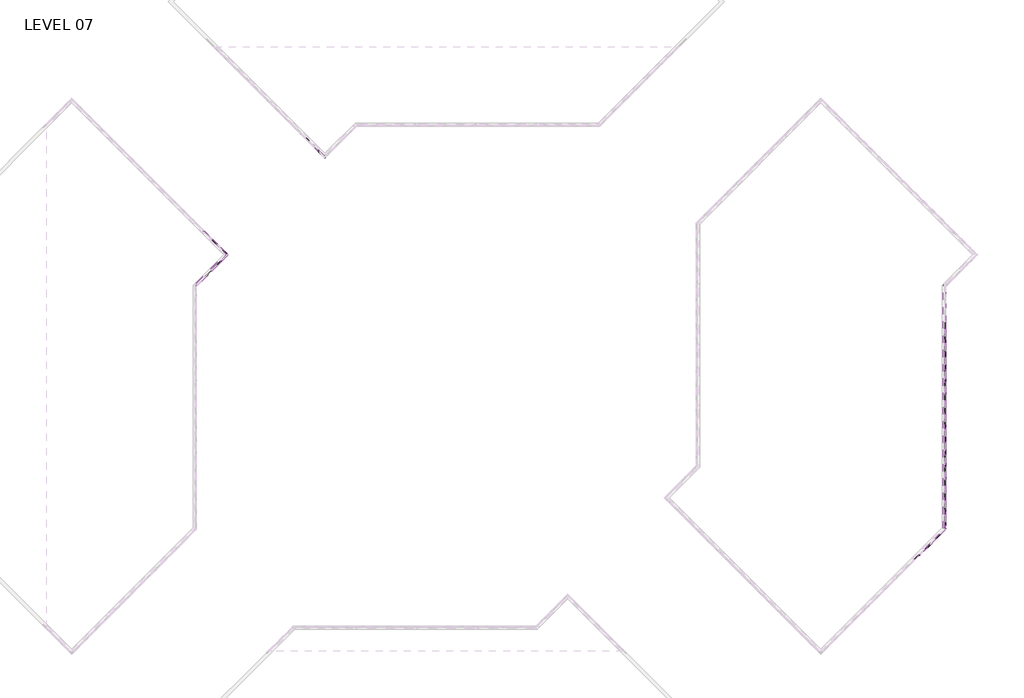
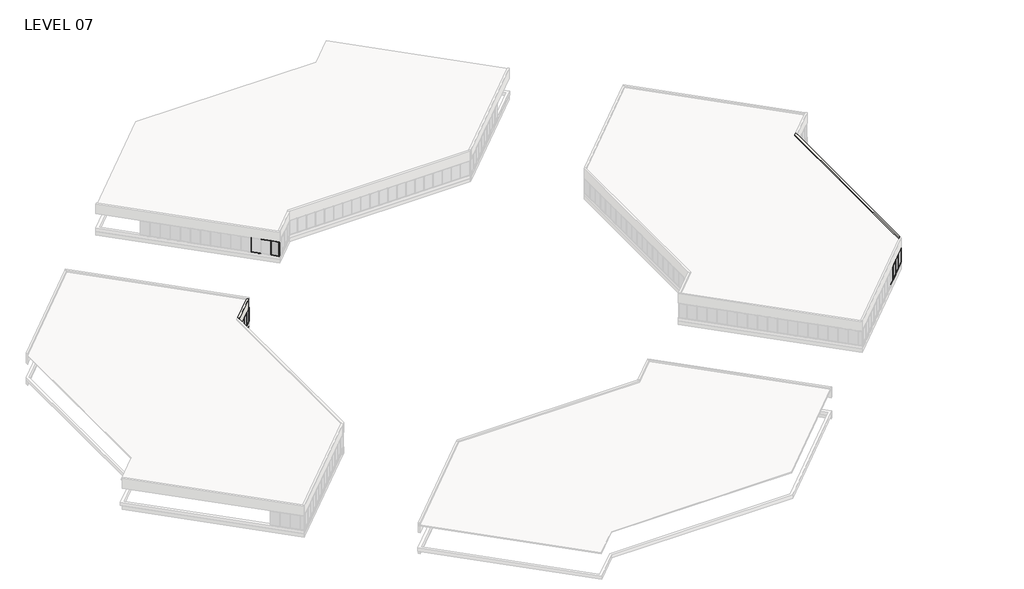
# One storey, part 12 of 18: 85 members, 25 plates, 4 walls.
"""IFC4 building model written with IfcOpenShell, lengths in millimetres."""

from ifc_helpers import new_model, si_unit, frame, origin, place, context, project, spatial, polyline, outline, extrude, faceted_brep, transform, mapped, element, save
from components import member_5247f267, member_e44af9ab, member_800970d4, member_dd9f6d43, member_1bd862b2, member_c975838b, plate_c3b8b83d, plate_67294edd, plate_bbcbcabf, plate_3fb62afd, plate_6ecefdb5

model = new_model("IFC4")

# Units and contexts
model_context = context("Model", 3, world=origin())
ifc_project = project(units=[si_unit("LENGTHUNIT", "METRE", prefix="MILLI")], contexts=[model_context])

# Site, building, storey
site = spatial("IfcSite", under=ifc_project)
building = spatial("IfcBuilding", under=site)
storey = spatial("IfcBuildingStorey", under=building, Name="LEVEL 07", Elevation=23368.0)

# Members
placement = place(None, origin())
member_shape = member_5247f267(model_context)
element("IfcMember", 1, ObjectType="Rectangular Mullion : 2\" x 4.5\" rectangular", at=placement, inside=storey, context=model_context, shape_type="MappedRepresentation", body=[
    mapped(member_shape, transform((11588.663179, 87977.3829903, 23368.0), x_axis=(0.0, 0.0, -1.0), y_axis=(-0.7071067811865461, -0.707106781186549, 0.0), z_axis=(-0.707106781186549, 0.7071067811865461, 0.0))),
])
element("IfcMember", 2, ObjectType="Rectangular Mullion : 2\" x 4.5\" rectangular", at=placement, inside=storey, context=model_context, shape_type="MappedRepresentation", body=[
    mapped(member_shape, transform((13708.0036235, 85858.0425458, 25958.8), x_axis=(0.0, 0.0, 1.0), y_axis=(-0.7071067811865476, -0.7071067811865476, 0.0), z_axis=(0.7071067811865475, -0.7071067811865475, 0.0))),
])
member_2_shape = member_e44af9ab(model_context)
element("IfcMember", 3, ObjectType="Rectangular Mullion : 2\" x 4.5\" rectangular", at=placement, inside=storey, context=model_context, shape_type="MappedRepresentation", body=[
    mapped(member_2_shape, transform((11570.7026667, 87995.3435026, 23368.0), x_axis=(0.7071067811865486, -0.7071067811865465, 0.0), y_axis=(-0.7071067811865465, -0.7071067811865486, 0.0), z_axis=(0.0, 0.0, -1.0))),
])
element("IfcMember", 4, ObjectType="Rectangular Mullion : 2\" x 4.5\" rectangular", at=placement, inside=storey, context=model_context, shape_type="MappedRepresentation", body=[
    mapped(member_2_shape, transform((13725.9641358, 85840.0820335, 23368.0), x_axis=(0.7071067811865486, -0.7071067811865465, 0.0), y_axis=(-0.7071067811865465, -0.7071067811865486, 0.0), z_axis=(0.0, 0.0, -1.0))),
])
member_3_shape = member_800970d4(model_context)
element("IfcMember", 5, ObjectType="Rectangular Mullion : 2\" x 4.5\" rectangular", at=placement, inside=storey, context=model_context, shape_type="MappedRepresentation", body=[
    mapped(member_3_shape, transform((14585.95, 84980.0961693, 23368.0), x_axis=(0.7071067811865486, -0.7071067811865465, 0.0), y_axis=(-0.7071067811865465, -0.7071067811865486, 0.0), z_axis=(0.0, 0.0, -1.0))),
])
element("IfcMember", 6, ObjectType="Rectangular Mullion : 2\" x 4.5\" rectangular", at=placement, inside=storey, context=model_context, shape_type="MappedRepresentation", body=[
    mapped(member_3_shape, transform((14585.95, 84980.0961693, 25958.8), x_axis=(-0.7071067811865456, -0.7071067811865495, 0.0), y_axis=(0.7071067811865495, -0.7071067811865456, 0.0), z_axis=(0.0, 0.0, 1.0))),
])
member_4_shape = member_dd9f6d43(model_context)
element("IfcMember", 7, ObjectType="Rectangular Mullion : 2\" x 4.5\" rectangular", at=placement, inside=storey, context=model_context, shape_type="MappedRepresentation", body=[
    mapped(member_4_shape, transform((14550.0289755, 85016.0171938, 25958.8), x_axis=(0.0, 0.0, 1.0), y_axis=(-0.7071067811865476, -0.7071067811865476, 0.0), z_axis=(0.7071067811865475, -0.7071067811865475, 0.0))),
])
element("IfcMember", 8, ObjectType="Rectangular Mullion : 2\" x 4.5\" rectangular", at=placement, inside=storey, context=model_context, shape_type="MappedRepresentation", body=[
    mapped(member_4_shape, transform((13743.924648, 85822.1215213, 23368.0), x_axis=(0.0, 0.0, -1.0), y_axis=(-0.7071067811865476, -0.7071067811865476, 0.0), z_axis=(-0.7071067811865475, 0.7071067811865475, 0.0))),
])
element("IfcMember", 9, ObjectType="Rectangular Mullion : 2\" x 4.5\" rectangular", at=placement, inside=storey, context=model_context, shape_type="MappedRepresentation", body=[
    mapped(member_shape, transform((92435.9347164, 58305.3675885, 25958.8), x_axis=(0.0, 0.0, 1.0), y_axis=(-1.0, 0.0, 0.0), z_axis=(0.0, -1.0, 0.0))),
])
element("IfcMember", 10, ObjectType="Rectangular Mullion : 2\" x 4.5\" rectangular", at=placement, inside=storey, context=model_context, shape_type="MappedRepresentation", body=[
    mapped(member_shape, transform((92435.9347164, 56781.3675885, 25958.8), x_axis=(0.0, 0.0, 1.0), y_axis=(-1.0, 0.0, 0.0), z_axis=(0.0, -1.0, 0.0))),
])
element("IfcMember", 11, ObjectType="Rectangular Mullion : 2\" x 4.5\" rectangular", at=placement, inside=storey, context=model_context, shape_type="MappedRepresentation", body=[
    mapped(member_shape, transform((92435.9347164, 55257.3675885, 25958.8), x_axis=(0.0, 0.0, 1.0), y_axis=(-1.0, 0.0, 0.0), z_axis=(0.0, -1.0, 0.0))),
])
element("IfcMember", 12, ObjectType="Rectangular Mullion : 2\" x 4.5\" rectangular", at=placement, inside=storey, context=model_context, shape_type="MappedRepresentation", body=[
    mapped(member_shape, transform((92435.9347164, 52209.3675885, 25958.8), x_axis=(0.0, 0.0, 1.0), y_axis=(-1.0, 0.0, 0.0), z_axis=(0.0, -1.0, 0.0))),
])
element("IfcMember", 13, ObjectType="Rectangular Mullion : 2\" x 4.5\" rectangular", at=placement, inside=storey, context=model_context, shape_type="MappedRepresentation", body=[
    mapped(member_shape, transform((92435.9347164, 50685.3675885, 25958.8), x_axis=(0.0, 0.0, 1.0), y_axis=(-1.0, 0.0, 0.0), z_axis=(0.0, -1.0, 0.0))),
])
element("IfcMember", 14, ObjectType="Rectangular Mullion : 2\" x 4.5\" rectangular", at=placement, inside=storey, context=model_context, shape_type="MappedRepresentation", body=[
    mapped(member_shape, transform((92435.9347164, 47637.3675885, 25958.8), x_axis=(0.0, 0.0, 1.0), y_axis=(-1.0, 0.0, 0.0), z_axis=(0.0, -1.0, 0.0))),
])
element("IfcMember", 15, ObjectType="Rectangular Mullion : 2\" x 4.5\" rectangular", at=placement, inside=storey, context=model_context, shape_type="MappedRepresentation", body=[
    mapped(member_shape, transform((92435.9347164, 43065.3675885, 25958.8), x_axis=(0.0, 0.0, 1.0), y_axis=(-1.0, 0.0, 0.0), z_axis=(0.0, -1.0, 0.0))),
])
element("IfcMember", 16, ObjectType="Rectangular Mullion : 2\" x 4.5\" rectangular", at=placement, inside=storey, context=model_context, shape_type="MappedRepresentation", body=[
    mapped(member_shape, transform((92435.9347164, 41541.3675885, 25958.8), x_axis=(0.0, 0.0, 1.0), y_axis=(-1.0, 0.0, 0.0), z_axis=(0.0, -1.0, 0.0))),
])
element("IfcMember", 17, ObjectType="Rectangular Mullion : 2\" x 4.5\" rectangular", at=placement, inside=storey, context=model_context, shape_type="MappedRepresentation", body=[
    mapped(member_shape, transform((92435.9347164, 62877.3675885, 25958.8), x_axis=(0.0, 0.0, 1.0), y_axis=(-1.0, 0.0, 0.0), z_axis=(0.0, -1.0, 0.0))),
])
element("IfcMember", 18, ObjectType="Rectangular Mullion : 2\" x 4.5\" rectangular", at=placement, inside=storey, context=model_context, shape_type="MappedRepresentation", body=[
    mapped(member_shape, transform((92435.9347164, 59829.3675885, 25958.8), x_axis=(0.0, 0.0, 1.0), y_axis=(-1.0, 0.0, 0.0), z_axis=(0.0, -1.0, 0.0))),
])
element("IfcMember", 19, ObjectType="Rectangular Mullion : 2\" x 4.5\" rectangular", at=placement, inside=storey, context=model_context, shape_type="MappedRepresentation", body=[
    mapped(member_shape, transform((92435.9347164, 61353.3675885, 25958.8), x_axis=(0.0, 0.0, 1.0), y_axis=(-1.0, 0.0, 0.0), z_axis=(0.0, -1.0, 0.0))),
])
element("IfcMember", 20, ObjectType="Rectangular Mullion : 2\" x 4.5\" rectangular", at=placement, inside=storey, context=model_context, shape_type="MappedRepresentation", body=[
    mapped(member_shape, transform((92435.9347164, 49161.3675885, 25958.8), x_axis=(0.0, 0.0, 1.0), y_axis=(-1.0, 0.0, 0.0), z_axis=(0.0, -1.0, 0.0))),
])
element("IfcMember", 21, ObjectType="Rectangular Mullion : 2\" x 4.5\" rectangular", at=placement, inside=storey, context=model_context, shape_type="MappedRepresentation", body=[
    mapped(member_shape, transform((92435.9347164, 53733.3675885, 25958.8), x_axis=(0.0, 0.0, 1.0), y_axis=(-1.0, 0.0, 0.0), z_axis=(0.0, -1.0, 0.0))),
])
element("IfcMember", 22, ObjectType="Rectangular Mullion : 2\" x 4.5\" rectangular", at=placement, inside=storey, context=model_context, shape_type="MappedRepresentation", body=[
    mapped(member_shape, transform((92435.9347164, 46113.3675885, 25958.8), x_axis=(0.0, 0.0, 1.0), y_axis=(-1.0, 0.0, 0.0), z_axis=(0.0, -1.0, 0.0))),
])
element("IfcMember", 23, ObjectType="Rectangular Mullion : 2\" x 4.5\" rectangular", at=placement, inside=storey, context=model_context, shape_type="MappedRepresentation", body=[
    mapped(member_shape, transform((92435.9347164, 44589.3675885, 25958.8), x_axis=(0.0, 0.0, 1.0), y_axis=(-1.0, 0.0, 0.0), z_axis=(0.0, -1.0, 0.0))),
])
element("IfcMember", 24, ObjectType="Rectangular Mullion : 2\" x 4.5\" rectangular", at=placement, inside=storey, context=model_context, shape_type="MappedRepresentation", body=[
    mapped(member_shape, transform((92435.9347164, 40017.3675885, 25958.8), x_axis=(0.0, 0.0, 1.0), y_axis=(-1.0, 0.0, 0.0), z_axis=(0.0, -1.0, 0.0))),
])
element("IfcMember", 25, ObjectType="Rectangular Mullion : 2\" x 4.5\" rectangular", at=placement, inside=storey, context=model_context, shape_type="MappedRepresentation", body=[
    mapped(member_shape, transform((90181.6405, 36047.9672365, 25958.8), x_axis=(0.0, 0.0, 1.0), y_axis=(-0.7071067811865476, 0.7071067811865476, 0.0), z_axis=(-0.7071067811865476, -0.7071067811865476, 0.0))),
])
element("IfcMember", 26, ObjectType="Rectangular Mullion : 2\" x 4.5\" rectangular", at=placement, inside=storey, context=model_context, shape_type="MappedRepresentation", body=[
    mapped(member_shape, transform((89104.0097655, 34970.336502, 25958.8), x_axis=(0.0, 0.0, 1.0), y_axis=(-0.7071067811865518, 0.7071067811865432, 0.0), z_axis=(-0.7071067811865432, -0.7071067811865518, 0.0))),
])
element("IfcMember", 27, ObjectType="Rectangular Mullion : 2\" x 4.5\" rectangular", at=placement, inside=storey, context=model_context, shape_type="MappedRepresentation", body=[
    mapped(member_shape, transform((408.2443082, 74713.5446995, 25958.8), x_axis=(0.0, 0.0, 1.0), y_axis=(-0.7071067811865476, -0.7071067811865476, 0.0), z_axis=(0.7071067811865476, -0.7071067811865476, 0.0))),
])
element("IfcMember", 28, ObjectType="Rectangular Mullion : 2\" x 4.5\" rectangular", at=placement, inside=storey, context=model_context, shape_type="MappedRepresentation", body=[
    mapped(member_shape, transform((1485.8750428, 73635.913965, 25958.8), x_axis=(0.0, 0.0, 1.0), y_axis=(-0.7071067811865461, -0.707106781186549, 0.0), z_axis=(0.707106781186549, -0.7071067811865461, 0.0))),
])
element("IfcMember", 29, ObjectType="Rectangular Mullion : 2\" x 4.5\" rectangular", at=placement, inside=storey, context=model_context, shape_type="MappedRepresentation", body=[
    mapped(member_shape, transform((444.1692236, 70838.3153929, 25958.8), x_axis=(0.0, 0.0, 1.0), y_axis=(-0.7071067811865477, 0.7071067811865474, 0.0), z_axis=(-0.7071067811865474, -0.7071067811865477, 0.0))),
])
element("IfcMember", 30, ObjectType="Rectangular Mullion : 2\" x 4.5\" rectangular", at=placement, inside=storey, context=model_context, shape_type="MappedRepresentation", body=[
    mapped(member_shape, transform((92435.9347164, 58254.5675885, 23368.0), x_axis=(0.0, 0.0, -1.0), y_axis=(-1.0, 0.0, 0.0), z_axis=(0.0, 1.0, 0.0))),
])
element("IfcMember", 31, ObjectType="Rectangular Mullion : 2\" x 4.5\" rectangular", at=placement, inside=storey, context=model_context, shape_type="MappedRepresentation", body=[
    mapped(member_shape, transform((92435.9347164, 56730.5675885, 23368.0), x_axis=(0.0, 0.0, -1.0), y_axis=(-1.0, 0.0, 0.0), z_axis=(0.0, 1.0, 0.0))),
])
element("IfcMember", 32, ObjectType="Rectangular Mullion : 2\" x 4.5\" rectangular", at=placement, inside=storey, context=model_context, shape_type="MappedRepresentation", body=[
    mapped(member_shape, transform((92435.9347164, 55206.5675885, 23368.0), x_axis=(0.0, 0.0, -1.0), y_axis=(-1.0, 0.0, 0.0), z_axis=(0.0, 1.0, 0.0))),
])
element("IfcMember", 33, ObjectType="Rectangular Mullion : 2\" x 4.5\" rectangular", at=placement, inside=storey, context=model_context, shape_type="MappedRepresentation", body=[
    mapped(member_shape, transform((92435.9347164, 52158.5675885, 23368.0), x_axis=(0.0, 0.0, -1.0), y_axis=(-1.0, 0.0, 0.0), z_axis=(0.0, 1.0, 0.0))),
])
element("IfcMember", 34, ObjectType="Rectangular Mullion : 2\" x 4.5\" rectangular", at=placement, inside=storey, context=model_context, shape_type="MappedRepresentation", body=[
    mapped(member_shape, transform((92435.9347164, 50634.5675885, 23368.0), x_axis=(0.0, 0.0, -1.0), y_axis=(-1.0, 0.0, 0.0), z_axis=(0.0, 1.0, 0.0))),
])
element("IfcMember", 35, ObjectType="Rectangular Mullion : 2\" x 4.5\" rectangular", at=placement, inside=storey, context=model_context, shape_type="MappedRepresentation", body=[
    mapped(member_shape, transform((92435.9347164, 47586.5675885, 23368.0), x_axis=(0.0, 0.0, -1.0), y_axis=(-1.0, 0.0, 0.0), z_axis=(0.0, 1.0, 0.0))),
])
element("IfcMember", 36, ObjectType="Rectangular Mullion : 2\" x 4.5\" rectangular", at=placement, inside=storey, context=model_context, shape_type="MappedRepresentation", body=[
    mapped(member_shape, transform((92435.9347164, 43014.5675885, 23368.0), x_axis=(0.0, 0.0, -1.0), y_axis=(-1.0, 0.0, 0.0), z_axis=(0.0, 1.0, 0.0))),
])
element("IfcMember", 37, ObjectType="Rectangular Mullion : 2\" x 4.5\" rectangular", at=placement, inside=storey, context=model_context, shape_type="MappedRepresentation", body=[
    mapped(member_shape, transform((92435.9347164, 41490.5675885, 23368.0), x_axis=(0.0, 0.0, -1.0), y_axis=(-1.0, 0.0, 0.0), z_axis=(0.0, 1.0, 0.0))),
])
element("IfcMember", 38, ObjectType="Rectangular Mullion : 2\" x 4.5\" rectangular", at=placement, inside=storey, context=model_context, shape_type="MappedRepresentation", body=[
    mapped(member_shape, transform((92435.9347164, 62826.5675885, 23368.0), x_axis=(0.0, 0.0, -1.0), y_axis=(-1.0, 0.0, 0.0), z_axis=(0.0, 1.0, 0.0))),
])
element("IfcMember", 39, ObjectType="Rectangular Mullion : 2\" x 4.5\" rectangular", at=placement, inside=storey, context=model_context, shape_type="MappedRepresentation", body=[
    mapped(member_shape, transform((92435.9347164, 59778.5675885, 23368.0), x_axis=(0.0, 0.0, -1.0), y_axis=(-1.0, 0.0, 0.0), z_axis=(0.0, 1.0, 0.0))),
])
element("IfcMember", 40, ObjectType="Rectangular Mullion : 2\" x 4.5\" rectangular", at=placement, inside=storey, context=model_context, shape_type="MappedRepresentation", body=[
    mapped(member_shape, transform((92435.9347164, 61302.5675885, 23368.0), x_axis=(0.0, 0.0, -1.0), y_axis=(-1.0, 0.0, 0.0), z_axis=(0.0, 1.0, 0.0))),
])
element("IfcMember", 41, ObjectType="Rectangular Mullion : 2\" x 4.5\" rectangular", at=placement, inside=storey, context=model_context, shape_type="MappedRepresentation", body=[
    mapped(member_shape, transform((92435.9347164, 49110.5675885, 23368.0), x_axis=(0.0, 0.0, -1.0), y_axis=(-1.0, 0.0, 0.0), z_axis=(0.0, 1.0, 0.0))),
])
element("IfcMember", 42, ObjectType="Rectangular Mullion : 2\" x 4.5\" rectangular", at=placement, inside=storey, context=model_context, shape_type="MappedRepresentation", body=[
    mapped(member_shape, transform((92435.9347164, 53682.5675885, 23368.0), x_axis=(0.0, 0.0, -1.0), y_axis=(-1.0, 0.0, 0.0), z_axis=(0.0, 1.0, 0.0))),
])
element("IfcMember", 43, ObjectType="Rectangular Mullion : 2\" x 4.5\" rectangular", at=placement, inside=storey, context=model_context, shape_type="MappedRepresentation", body=[
    mapped(member_shape, transform((92435.9347164, 46062.5675885, 23368.0), x_axis=(0.0, 0.0, -1.0), y_axis=(-1.0, 0.0, 0.0), z_axis=(0.0, 1.0, 0.0))),
])
element("IfcMember", 44, ObjectType="Rectangular Mullion : 2\" x 4.5\" rectangular", at=placement, inside=storey, context=model_context, shape_type="MappedRepresentation", body=[
    mapped(member_shape, transform((92435.9347164, 44538.5675885, 23368.0), x_axis=(0.0, 0.0, -1.0), y_axis=(-1.0, 0.0, 0.0), z_axis=(0.0, 1.0, 0.0))),
])
element("IfcMember", 45, ObjectType="Rectangular Mullion : 2\" x 4.5\" rectangular", at=placement, inside=storey, context=model_context, shape_type="MappedRepresentation", body=[
    mapped(member_shape, transform((91223.3502101, 37089.6769466, 23368.0), x_axis=(0.0, 0.0, -1.0), y_axis=(-0.7071067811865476, 0.7071067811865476, 0.0), z_axis=(0.7071067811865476, 0.7071067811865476, 0.0))),
])
element("IfcMember", 46, ObjectType="Rectangular Mullion : 2\" x 4.5\" rectangular", at=placement, inside=storey, context=model_context, shape_type="MappedRepresentation", body=[
    mapped(member_shape, transform((90145.7194756, 36012.046212, 23368.0), x_axis=(0.0, 0.0, -1.0), y_axis=(-0.7071067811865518, 0.7071067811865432, 0.0), z_axis=(0.7071067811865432, 0.7071067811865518, 0.0))),
])
element("IfcMember", 47, ObjectType="Rectangular Mullion : 2\" x 4.5\" rectangular", at=placement, inside=storey, context=model_context, shape_type="MappedRepresentation", body=[
    mapped(member_shape, transform((89068.088741, 34934.4154775, 23368.0), x_axis=(0.0, 0.0, -1.0), y_axis=(-0.707106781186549, 0.7071067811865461, 0.0), z_axis=(0.7071067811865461, 0.707106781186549, 0.0))),
])
element("IfcMember", 48, ObjectType="Rectangular Mullion : 2\" x 4.5\" rectangular", at=placement, inside=storey, context=model_context, shape_type="MappedRepresentation", body=[
    mapped(member_shape, transform((444.1653327, 74677.623675, 23368.0), x_axis=(0.0, 0.0, -1.0), y_axis=(-0.7071067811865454, -0.7071067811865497, 0.0), z_axis=(-0.7071067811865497, 0.7071067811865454, 0.0))),
])
element("IfcMember", 49, ObjectType="Rectangular Mullion : 2\" x 4.5\" rectangular", at=placement, inside=storey, context=model_context, shape_type="MappedRepresentation", body=[
    mapped(member_shape, transform((1485.8789337, 71880.025103, 23368.0), x_axis=(0.0, 0.0, -1.0), y_axis=(-0.7071067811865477, 0.7071067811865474, 0.0), z_axis=(0.7071067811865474, 0.7071067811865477, 0.0))),
])
element("IfcMember", 50, ObjectType="Rectangular Mullion : 2\" x 4.5\" rectangular", at=placement, inside=storey, context=model_context, shape_type="MappedRepresentation", body=[
    mapped(member_shape, transform((408.2481992, 70802.3943684, 23368.0), x_axis=(0.0, 0.0, -1.0), y_axis=(-0.7071067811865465, 0.7071067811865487, 0.0), z_axis=(0.7071067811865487, 0.7071067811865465, 0.0))),
])
element("IfcMember", 51, ObjectType="Rectangular Mullion : 2\" x 4.5\" rectangular", at=placement, inside=storey, context=model_context, shape_type="MappedRepresentation", body=[
    mapped(member_2_shape, transform((92435.9347164, 58279.9675885, 23368.0), x_axis=(0.0, -1.0, 0.0), y_axis=(-1.0, 0.0, 0.0), z_axis=(0.0, 0.0, -1.0))),
])
element("IfcMember", 52, ObjectType="Rectangular Mullion : 2\" x 4.5\" rectangular", at=placement, inside=storey, context=model_context, shape_type="MappedRepresentation", body=[
    mapped(member_2_shape, transform((92435.9347164, 56755.9675885, 23368.0), x_axis=(0.0, -1.0, 0.0), y_axis=(-1.0, 0.0, 0.0), z_axis=(0.0, 0.0, -1.0))),
])
element("IfcMember", 53, ObjectType="Rectangular Mullion : 2\" x 4.5\" rectangular", at=placement, inside=storey, context=model_context, shape_type="MappedRepresentation", body=[
    mapped(member_2_shape, transform((92435.9347164, 55231.9675885, 23368.0), x_axis=(0.0, -1.0, 0.0), y_axis=(-1.0, 0.0, 0.0), z_axis=(0.0, 0.0, -1.0))),
])
element("IfcMember", 54, ObjectType="Rectangular Mullion : 2\" x 4.5\" rectangular", at=placement, inside=storey, context=model_context, shape_type="MappedRepresentation", body=[
    mapped(member_2_shape, transform((92435.9347164, 52183.9675885, 23368.0), x_axis=(0.0, -1.0, 0.0), y_axis=(-1.0, 0.0, 0.0), z_axis=(0.0, 0.0, -1.0))),
])
element("IfcMember", 55, ObjectType="Rectangular Mullion : 2\" x 4.5\" rectangular", at=placement, inside=storey, context=model_context, shape_type="MappedRepresentation", body=[
    mapped(member_2_shape, transform((92435.9347164, 50659.9675885, 23368.0), x_axis=(0.0, -1.0, 0.0), y_axis=(-1.0, 0.0, 0.0), z_axis=(0.0, 0.0, -1.0))),
])
element("IfcMember", 56, ObjectType="Rectangular Mullion : 2\" x 4.5\" rectangular", at=placement, inside=storey, context=model_context, shape_type="MappedRepresentation", body=[
    mapped(member_2_shape, transform((92435.9347164, 47611.9675885, 23368.0), x_axis=(0.0, -1.0, 0.0), y_axis=(-1.0, 0.0, 0.0), z_axis=(0.0, 0.0, -1.0))),
])
element("IfcMember", 57, ObjectType="Rectangular Mullion : 2\" x 4.5\" rectangular", at=placement, inside=storey, context=model_context, shape_type="MappedRepresentation", body=[
    mapped(member_2_shape, transform((92435.9347164, 43039.9675885, 23368.0), x_axis=(0.0, -1.0, 0.0), y_axis=(-1.0, 0.0, 0.0), z_axis=(0.0, 0.0, -1.0))),
])
element("IfcMember", 58, ObjectType="Rectangular Mullion : 2\" x 4.5\" rectangular", at=placement, inside=storey, context=model_context, shape_type="MappedRepresentation", body=[
    mapped(member_2_shape, transform((92435.9347164, 41515.9675885, 23368.0), x_axis=(0.0, -1.0, 0.0), y_axis=(-1.0, 0.0, 0.0), z_axis=(0.0, 0.0, -1.0))),
])
element("IfcMember", 59, ObjectType="Rectangular Mullion : 2\" x 4.5\" rectangular", at=placement, inside=storey, context=model_context, shape_type="MappedRepresentation", body=[
    mapped(member_2_shape, transform((92435.9347164, 62851.9675885, 23368.0), x_axis=(0.0, -1.0, 0.0), y_axis=(-1.0, 0.0, 0.0), z_axis=(0.0, 0.0, -1.0))),
])
element("IfcMember", 60, ObjectType="Rectangular Mullion : 2\" x 4.5\" rectangular", at=placement, inside=storey, context=model_context, shape_type="MappedRepresentation", body=[
    mapped(member_2_shape, transform((92435.9347164, 59803.9675885, 23368.0), x_axis=(0.0, -1.0, 0.0), y_axis=(-1.0, 0.0, 0.0), z_axis=(0.0, 0.0, -1.0))),
])
element("IfcMember", 61, ObjectType="Rectangular Mullion : 2\" x 4.5\" rectangular", at=placement, inside=storey, context=model_context, shape_type="MappedRepresentation", body=[
    mapped(member_2_shape, transform((92435.9347164, 61327.9675885, 23368.0), x_axis=(0.0, -1.0, 0.0), y_axis=(-1.0, 0.0, 0.0), z_axis=(0.0, 0.0, -1.0))),
])
element("IfcMember", 62, ObjectType="Rectangular Mullion : 2\" x 4.5\" rectangular", at=placement, inside=storey, context=model_context, shape_type="MappedRepresentation", body=[
    mapped(member_2_shape, transform((92435.9347164, 49135.9675885, 23368.0), x_axis=(0.0, -1.0, 0.0), y_axis=(-1.0, 0.0, 0.0), z_axis=(0.0, 0.0, -1.0))),
])
element("IfcMember", 63, ObjectType="Rectangular Mullion : 2\" x 4.5\" rectangular", at=placement, inside=storey, context=model_context, shape_type="MappedRepresentation", body=[
    mapped(member_2_shape, transform((92435.9347164, 53707.9675885, 23368.0), x_axis=(0.0, -1.0, 0.0), y_axis=(-1.0, 0.0, 0.0), z_axis=(0.0, 0.0, -1.0))),
])
element("IfcMember", 64, ObjectType="Rectangular Mullion : 2\" x 4.5\" rectangular", at=placement, inside=storey, context=model_context, shape_type="MappedRepresentation", body=[
    mapped(member_2_shape, transform((92435.9347164, 46087.9675885, 23368.0), x_axis=(0.0, -1.0, 0.0), y_axis=(-1.0, 0.0, 0.0), z_axis=(0.0, 0.0, -1.0))),
])
element("IfcMember", 65, ObjectType="Rectangular Mullion : 2\" x 4.5\" rectangular", at=placement, inside=storey, context=model_context, shape_type="MappedRepresentation", body=[
    mapped(member_2_shape, transform((92435.9347164, 44563.9675885, 23368.0), x_axis=(0.0, -1.0, 0.0), y_axis=(-1.0, 0.0, 0.0), z_axis=(0.0, 0.0, -1.0))),
])
element("IfcMember", 66, ObjectType="Rectangular Mullion : 2\" x 4.5\" rectangular", at=placement, inside=storey, context=model_context, shape_type="MappedRepresentation", body=[
    mapped(member_2_shape, transform((92435.9347164, 39991.9675885, 23368.0), x_axis=(0.0, -1.0, 0.0), y_axis=(-1.0, 0.0, 0.0), z_axis=(0.0, 0.0, -1.0))),
])
element("IfcMember", 67, ObjectType="Rectangular Mullion : 2\" x 4.5\" rectangular", at=placement, inside=storey, context=model_context, shape_type="MappedRepresentation", body=[
    mapped(member_2_shape, transform((91241.3107223, 37107.6374588, 23368.0), x_axis=(-0.7071067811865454, -0.7071067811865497, 0.0), y_axis=(-0.7071067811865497, 0.7071067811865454, 0.0), z_axis=(0.0, 0.0, -1.0))),
])
element("IfcMember", 68, ObjectType="Rectangular Mullion : 2\" x 4.5\" rectangular", at=placement, inside=storey, context=model_context, shape_type="MappedRepresentation", body=[
    mapped(member_2_shape, transform((90163.6799878, 36030.0067243, 23368.0), x_axis=(-0.7071067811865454, -0.7071067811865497, 0.0), y_axis=(-0.7071067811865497, 0.7071067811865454, 0.0), z_axis=(0.0, 0.0, -1.0))),
])
element("IfcMember", 69, ObjectType="Rectangular Mullion : 2\" x 4.5\" rectangular", at=placement, inside=storey, context=model_context, shape_type="MappedRepresentation", body=[
    mapped(member_2_shape, transform((89086.0492533, 34952.3759898, 23368.0), x_axis=(-0.7071067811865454, -0.7071067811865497, 0.0), y_axis=(-0.7071067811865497, 0.7071067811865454, 0.0), z_axis=(0.0, 0.0, -1.0))),
])
element("IfcMember", 70, ObjectType="Rectangular Mullion : 2\" x 4.5\" rectangular", at=placement, inside=storey, context=model_context, shape_type="MappedRepresentation", body=[
    mapped(member_2_shape, transform((426.2048205, 74695.5841873, 23368.0), x_axis=(0.707106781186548, -0.7071067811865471, 0.0), y_axis=(-0.7071067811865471, -0.707106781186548, 0.0), z_axis=(0.0, 0.0, -1.0))),
])
element("IfcMember", 71, ObjectType="Rectangular Mullion : 2\" x 4.5\" rectangular", at=placement, inside=storey, context=model_context, shape_type="MappedRepresentation", body=[
    mapped(member_2_shape, transform((1503.835555, 73617.9534527, 23368.0), x_axis=(0.707106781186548, -0.7071067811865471, 0.0), y_axis=(-0.7071067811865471, -0.707106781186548, 0.0), z_axis=(0.0, 0.0, -1.0))),
])
element("IfcMember", 72, ObjectType="Rectangular Mullion : 2\" x 4.5\" rectangular", at=placement, inside=storey, context=model_context, shape_type="MappedRepresentation", body=[
    mapped(member_2_shape, transform((1503.8394459, 71897.9856152, 23368.0), x_axis=(-0.707106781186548, -0.7071067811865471, 0.0), y_axis=(-0.7071067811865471, 0.707106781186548, 0.0), z_axis=(0.0, 0.0, -1.0))),
])
element("IfcMember", 73, ObjectType="Rectangular Mullion : 2\" x 4.5\" rectangular", at=placement, inside=storey, context=model_context, shape_type="MappedRepresentation", body=[
    mapped(member_2_shape, transform((426.2087114, 70820.3548807, 23368.0), x_axis=(-0.707106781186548, -0.7071067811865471, 0.0), y_axis=(-0.7071067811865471, 0.707106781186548, 0.0), z_axis=(0.0, 0.0, -1.0))),
])
element("IfcMember", 74, ObjectType="Rectangular Mullion : 2\" x 4.5\" rectangular", at=placement, inside=storey, context=model_context, shape_type="MappedRepresentation", body=[
    mapped(member_3_shape, transform((92435.9347164, 38302.2614529, 23368.0), x_axis=(0.0, -1.0, 0.0), y_axis=(-1.0, 0.0, 0.0), z_axis=(0.0, 0.0, -1.0))),
])
element("IfcMember", 75, ObjectType="Rectangular Mullion : 2\" x 4.5\" rectangular", at=placement, inside=storey, context=model_context, shape_type="MappedRepresentation", body=[
    mapped(member_3_shape, transform((2363.8214192, 72757.9675885, 23368.0), x_axis=(0.707106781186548, -0.7071067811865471, 0.0), y_axis=(-0.7071067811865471, -0.707106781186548, 0.0), z_axis=(0.0, 0.0, -1.0))),
])
element("IfcMember", 76, ObjectType="Rectangular Mullion : 2\" x 4.5\" rectangular", at=placement, inside=storey, context=model_context, shape_type="MappedRepresentation", body=[
    mapped(member_3_shape, transform((92435.9347164, 38302.2614529, 25958.8), x_axis=(0.7071067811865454, 0.7071067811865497, 0.0), y_axis=(-0.7071067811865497, 0.7071067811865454, 0.0), z_axis=(0.0, 0.0, 1.0))),
])
element("IfcMember", 77, ObjectType="Rectangular Mullion : 2\" x 4.5\" rectangular", at=placement, inside=storey, context=model_context, shape_type="MappedRepresentation", body=[
    mapped(member_3_shape, transform((2363.8214192, 72757.9675885, 25958.8), x_axis=(0.707106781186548, 0.7071067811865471, 0.0), y_axis=(-0.7071067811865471, 0.707106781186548, 0.0), z_axis=(0.0, 0.0, 1.0))),
])
member_5_shape = member_1bd862b2(model_context)
element("IfcMember", 78, ObjectType="Rectangular Mullion : 2\" x 4.5\" rectangular", at=placement, inside=storey, context=model_context, shape_type="MappedRepresentation", body=[
    mapped(member_5_shape, transform((92435.9347164, 39966.5675885, 23368.0), x_axis=(0.0, 0.0, -1.0), y_axis=(-1.0, 0.0, 0.0), z_axis=(0.0, 1.0, 0.0))),
])
element("IfcMember", 79, ObjectType="Rectangular Mullion : 2\" x 4.5\" rectangular", at=placement, inside=storey, context=model_context, shape_type="MappedRepresentation", body=[
    mapped(member_5_shape, transform((92435.9347164, 38353.0614529, 25958.8), x_axis=(0.0, 0.0, 1.0), y_axis=(-1.0, 0.0, 0.0), z_axis=(0.0, -1.0, 0.0))),
])
member_6_shape = member_c975838b(model_context)
element("IfcMember", 80, ObjectType="Rectangular Mullion : 2\" x 4.5\" rectangular", at=placement, inside=storey, context=model_context, shape_type="MappedRepresentation", body=[
    mapped(member_6_shape, transform((92400.0136919, 38266.3404284, 23368.0), x_axis=(0.0, 0.0, -1.0), y_axis=(-0.7071067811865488, 0.7071067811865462, 0.0), z_axis=(0.7071067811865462, 0.7071067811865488, 0.0))),
])
element("IfcMember", 81, ObjectType="Rectangular Mullion : 2\" x 4.5\" rectangular", at=placement, inside=storey, context=model_context, shape_type="MappedRepresentation", body=[
    mapped(member_6_shape, transform((91259.2712346, 37125.5979711, 25958.8), x_axis=(0.0, 0.0, 1.0), y_axis=(-0.7071067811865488, 0.7071067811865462, 0.0), z_axis=(-0.7071067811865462, -0.7071067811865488, 0.0))),
])
element("IfcMember", 82, ObjectType="Rectangular Mullion : 2\" x 4.5\" rectangular", at=placement, inside=storey, context=model_context, shape_type="MappedRepresentation", body=[
    mapped(member_4_shape, transform((2327.9003947, 72793.888613, 25958.8), x_axis=(0.0, 0.0, 1.0), y_axis=(-0.7071067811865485, -0.7071067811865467, 0.0), z_axis=(0.7071067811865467, -0.7071067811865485, 0.0))),
])
element("IfcMember", 83, ObjectType="Rectangular Mullion : 2\" x 4.5\" rectangular", at=placement, inside=storey, context=model_context, shape_type="MappedRepresentation", body=[
    mapped(member_4_shape, transform((1521.7999582, 71915.9461275, 25958.8), x_axis=(0.0, 0.0, 1.0), y_axis=(-0.7071067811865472, 0.7071067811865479, 0.0), z_axis=(-0.7071067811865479, -0.7071067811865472, 0.0))),
])
element("IfcMember", 84, ObjectType="Rectangular Mullion : 2\" x 4.5\" rectangular", at=placement, inside=storey, context=model_context, shape_type="MappedRepresentation", body=[
    mapped(member_4_shape, transform((1521.7960672, 73599.9929405, 23368.0), x_axis=(0.0, 0.0, -1.0), y_axis=(-0.7071067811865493, -0.7071067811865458, 0.0), z_axis=(-0.7071067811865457, 0.7071067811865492, 0.0))),
])
element("IfcMember", 85, ObjectType="Rectangular Mullion : 2\" x 4.5\" rectangular", at=placement, inside=storey, context=model_context, shape_type="MappedRepresentation", body=[
    mapped(member_4_shape, transform((2327.9003947, 72722.046564, 23368.0), x_axis=(0.0, 0.0, -1.0), y_axis=(-0.7071067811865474, 0.7071067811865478, 0.0), z_axis=(0.7071067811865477, 0.7071067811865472, 0.0))),
])

# Plates
plate_shape = plate_c3b8b83d(model_context)
element("IfcPlate", 86, ObjectType="System Panel : 1/4\" Glass", at=placement, inside=storey, context=model_context, shape_type="MappedRepresentation", body=[
    mapped(plate_shape, transform((14146.9768118, 85419.0693575, 23418.8), x_axis=(0.7071067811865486, -0.7071067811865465, 0.0), y_axis=(0.7071067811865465, 0.7071067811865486, 0.0), z_axis=(0.0, 0.0, 1.0))),
])
plate_2_shape = plate_67294edd(model_context)
element("IfcPlate", 87, ObjectType="System Panel : 1/4\" Glass", at=placement, inside=storey, context=model_context, shape_type="MappedRepresentation", body=[
    mapped(plate_2_shape, transform((92435.9347164, 63613.9675885, 23418.8), x_axis=(0.0, -1.0, 0.0), y_axis=(1.0, 0.0, 0.0), z_axis=(0.0, 0.0, 1.0))),
])
element("IfcPlate", 88, ObjectType="System Panel : 1/4\" Glass", at=placement, inside=storey, context=model_context, shape_type="MappedRepresentation", body=[
    mapped(plate_2_shape, transform((92435.9347164, 57517.9675885, 23418.8), x_axis=(0.0, -1.0, 0.0), y_axis=(1.0, 0.0, 0.0), z_axis=(0.0, 0.0, 1.0))),
])
element("IfcPlate", 89, ObjectType="System Panel : 1/4\" Glass", at=placement, inside=storey, context=model_context, shape_type="MappedRepresentation", body=[
    mapped(plate_2_shape, transform((92435.9347164, 55993.9675885, 23418.8), x_axis=(0.0, -1.0, 0.0), y_axis=(1.0, 0.0, 0.0), z_axis=(0.0, 0.0, 1.0))),
])
element("IfcPlate", 90, ObjectType="System Panel : 1/4\" Glass", at=placement, inside=storey, context=model_context, shape_type="MappedRepresentation", body=[
    mapped(plate_2_shape, transform((92435.9347164, 54469.9675885, 23418.8), x_axis=(0.0, -1.0, 0.0), y_axis=(1.0, 0.0, 0.0), z_axis=(0.0, 0.0, 1.0))),
])
element("IfcPlate", 91, ObjectType="System Panel : 1/4\" Glass", at=placement, inside=storey, context=model_context, shape_type="MappedRepresentation", body=[
    mapped(plate_2_shape, transform((92435.9347164, 51421.9675885, 23418.8), x_axis=(0.0, -1.0, 0.0), y_axis=(1.0, 0.0, 0.0), z_axis=(0.0, 0.0, 1.0))),
])
element("IfcPlate", 92, ObjectType="System Panel : 1/4\" Glass", at=placement, inside=storey, context=model_context, shape_type="MappedRepresentation", body=[
    mapped(plate_2_shape, transform((92435.9347164, 49897.9675885, 23418.8), x_axis=(0.0, -1.0, 0.0), y_axis=(1.0, 0.0, 0.0), z_axis=(0.0, 0.0, 1.0))),
])
element("IfcPlate", 93, ObjectType="System Panel : 1/4\" Glass", at=placement, inside=storey, context=model_context, shape_type="MappedRepresentation", body=[
    mapped(plate_2_shape, transform((92435.9347164, 46849.9675885, 23418.8), x_axis=(0.0, -1.0, 0.0), y_axis=(1.0, 0.0, 0.0), z_axis=(0.0, 0.0, 1.0))),
])
element("IfcPlate", 94, ObjectType="System Panel : 1/4\" Glass", at=placement, inside=storey, context=model_context, shape_type="MappedRepresentation", body=[
    mapped(plate_2_shape, transform((92435.9347164, 42277.9675885, 23418.8), x_axis=(0.0, -1.0, 0.0), y_axis=(1.0, 0.0, 0.0), z_axis=(0.0, 0.0, 1.0))),
])
element("IfcPlate", 95, ObjectType="System Panel : 1/4\" Glass", at=placement, inside=storey, context=model_context, shape_type="MappedRepresentation", body=[
    mapped(plate_2_shape, transform((92435.9347164, 40753.9675885, 23418.8), x_axis=(0.0, -1.0, 0.0), y_axis=(1.0, 0.0, 0.0), z_axis=(0.0, 0.0, 1.0))),
])
element("IfcPlate", 96, ObjectType="System Panel : 1/4\" Glass", at=placement, inside=storey, context=model_context, shape_type="MappedRepresentation", body=[
    mapped(plate_2_shape, transform((92435.9347164, 62089.9675885, 23418.8), x_axis=(0.0, -1.0, 0.0), y_axis=(1.0, 0.0, 0.0), z_axis=(0.0, 0.0, 1.0))),
])
element("IfcPlate", 97, ObjectType="System Panel : 1/4\" Glass", at=placement, inside=storey, context=model_context, shape_type="MappedRepresentation", body=[
    mapped(plate_2_shape, transform((92435.9347164, 59041.9675885, 23418.8), x_axis=(0.0, -1.0, 0.0), y_axis=(1.0, 0.0, 0.0), z_axis=(0.0, 0.0, 1.0))),
])
element("IfcPlate", 98, ObjectType="System Panel : 1/4\" Glass", at=placement, inside=storey, context=model_context, shape_type="MappedRepresentation", body=[
    mapped(plate_2_shape, transform((92435.9347164, 60565.9675885, 23418.8), x_axis=(0.0, -1.0, 0.0), y_axis=(1.0, 0.0, 0.0), z_axis=(0.0, 0.0, 1.0))),
])
element("IfcPlate", 99, ObjectType="System Panel : 1/4\" Glass", at=placement, inside=storey, context=model_context, shape_type="MappedRepresentation", body=[
    mapped(plate_2_shape, transform((92435.9347164, 48373.9675885, 23418.8), x_axis=(0.0, -1.0, 0.0), y_axis=(1.0, 0.0, 0.0), z_axis=(0.0, 0.0, 1.0))),
])
element("IfcPlate", 100, ObjectType="System Panel : 1/4\" Glass", at=placement, inside=storey, context=model_context, shape_type="MappedRepresentation", body=[
    mapped(plate_2_shape, transform((92435.9347164, 52945.9675885, 23418.8), x_axis=(0.0, -1.0, 0.0), y_axis=(1.0, 0.0, 0.0), z_axis=(0.0, 0.0, 1.0))),
])
element("IfcPlate", 101, ObjectType="System Panel : 1/4\" Glass", at=placement, inside=storey, context=model_context, shape_type="MappedRepresentation", body=[
    mapped(plate_2_shape, transform((92435.9347164, 45325.9675885, 23418.8), x_axis=(0.0, -1.0, 0.0), y_axis=(1.0, 0.0, 0.0), z_axis=(0.0, 0.0, 1.0))),
])
element("IfcPlate", 102, ObjectType="System Panel : 1/4\" Glass", at=placement, inside=storey, context=model_context, shape_type="MappedRepresentation", body=[
    mapped(plate_2_shape, transform((92435.9347164, 43801.9675885, 23418.8), x_axis=(0.0, -1.0, 0.0), y_axis=(1.0, 0.0, 0.0), z_axis=(0.0, 0.0, 1.0))),
])
element("IfcPlate", 103, ObjectType="System Panel : 1/4\" Glass", at=placement, inside=storey, context=model_context, shape_type="MappedRepresentation", body=[
    mapped(plate_2_shape, transform((90702.4953551, 36568.8220916, 23418.8), x_axis=(-0.7071067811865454, -0.7071067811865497, 0.0), y_axis=(0.7071067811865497, -0.7071067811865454, 0.0), z_axis=(0.0, 0.0, 1.0))),
])
element("IfcPlate", 104, ObjectType="System Panel : 1/4\" Glass", at=placement, inside=storey, context=model_context, shape_type="MappedRepresentation", body=[
    mapped(plate_2_shape, transform((89624.8646205, 35491.191357, 23418.8), x_axis=(-0.7071067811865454, -0.7071067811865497, 0.0), y_axis=(0.7071067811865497, -0.7071067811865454, 0.0), z_axis=(0.0, 0.0, 1.0))),
])
element("IfcPlate", 105, ObjectType="System Panel : 1/4\" Glass", at=placement, inside=storey, context=model_context, shape_type="MappedRepresentation", body=[
    mapped(plate_2_shape, transform((965.0201877, 74156.76882, 23418.8), x_axis=(0.707106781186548, -0.7071067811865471, 0.0), y_axis=(0.7071067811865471, 0.707106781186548, 0.0), z_axis=(0.0, 0.0, 1.0))),
])
element("IfcPlate", 106, ObjectType="System Panel : 1/4\" Glass", at=placement, inside=storey, context=model_context, shape_type="MappedRepresentation", body=[
    mapped(plate_2_shape, transform((965.0240787, 71359.170248, 23418.8), x_axis=(-0.707106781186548, -0.7071067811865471, 0.0), y_axis=(0.7071067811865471, -0.707106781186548, 0.0), z_axis=(0.0, 0.0, 1.0))),
])
plate_3_shape = plate_bbcbcabf(model_context)
element("IfcPlate", 107, ObjectType="System Panel : 1/4\" Glass", at=placement, inside=storey, context=model_context, shape_type="MappedRepresentation", body=[
    mapped(plate_3_shape, transform((92435.9347164, 39159.8145207, 23418.8), x_axis=(0.0, -1.0, 0.0), y_axis=(1.0, 0.0, 0.0), z_axis=(0.0, 0.0, 1.0))),
])
plate_4_shape = plate_3fb62afd(model_context)
element("IfcPlate", 108, ObjectType="System Panel : 1/4\" Glass", at=placement, inside=storey, context=model_context, shape_type="MappedRepresentation", body=[
    mapped(plate_4_shape, transform((91829.6424632, 37695.9691997, 23418.8), x_axis=(-0.7071067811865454, -0.7071067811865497, 0.0), y_axis=(0.7071067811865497, -0.7071067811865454, 0.0), z_axis=(0.0, 0.0, 1.0))),
])
plate_5_shape = plate_6ecefdb5(model_context)
element("IfcPlate", 109, ObjectType="System Panel : 1/4\" Glass", at=placement, inside=storey, context=model_context, shape_type="MappedRepresentation", body=[
    mapped(plate_5_shape, transform((1924.8501765, 72318.9963457, 23418.8), x_axis=(-0.707106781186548, -0.7071067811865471, 0.0), y_axis=(0.7071067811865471, -0.707106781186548, 0.0), z_axis=(0.0, 0.0, 1.0))),
])
element("IfcPlate", 110, ObjectType="System Panel : 1/4\" Glass", at=placement, inside=storey, context=model_context, shape_type="MappedRepresentation", body=[
    mapped(plate_shape, transform((1924.848231, 73196.9407768, 23418.8), x_axis=(0.707106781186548, -0.7071067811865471, 0.0), y_axis=(0.7071067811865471, 0.707106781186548, 0.0), z_axis=(0.0, 0.0, 1.0))),
])

# Walls
element("IfcWall", 111, ObjectType="01-CONCRETE-12", at=placement, inside=storey, context=model_context, shape_type="Brep", body=[
    faceted_brep([(92493.0847164, 38709.6414416, 22186.9), (92493.0847164, 68758.5891478, 22186.9), (92493.0847164, 69189.6414416, 22186.9), (92493.0847164, 69189.6414416, 22809.2), (92493.0847164, 68758.5891478, 22809.2), (92493.0847164, 38709.6414416, 22809.2), (92188.2847164, 38404.8414416, 22186.9), (92188.2847164, 38404.8414416, 22809.2), (92188.2847164, 68884.8414416, 22809.2), (92188.2847164, 68884.8414416, 22186.9)], [[[0, 1, 2, 3, 4, 5]], [[6, 7, 8, 9]], [[2, 1, 0, 6, 9]], [[5, 4, 3, 8, 7]], [[0, 5, 7, 6]], [[3, 2, 9, 8]]]),
])
element("IfcWall", 112, ObjectType="01-CONCRETE-12", at=placement, inside=storey, context=model_context, shape_type="Brep", body=[
    faceted_brep([(92493.0847164, 38709.6414416, 25958.8), (92493.0847164, 68758.5891478, 25958.8), (92493.0847164, 69189.6414416, 25958.8), (92493.0847164, 69189.6414416, 27673.3), (92493.0847164, 68758.5891478, 27673.3), (92493.0847164, 38709.6414416, 27673.3), (92188.2847164, 38404.8414416, 25958.8), (92188.2847164, 38404.8414416, 27673.3), (92188.2847164, 68884.8414416, 27673.3), (92188.2847164, 68884.8414416, 25958.8)], [[[0, 1, 2, 3, 4, 5]], [[6, 7, 8, 9]], [[2, 1, 0, 6, 9]], [[5, 4, 3, 8, 7]], [[0, 5, 7, 6]], [[3, 2, 9, 8]]]),
])
element("IfcWall", 113, ObjectType="01-CONCRETE-12", at=placement, inside=storey, context=model_context, shape_type="SweptSolid", body=[
    extrude(outline(polyline([(2229.1175774, 72542.4414416), (-1554.7347164, 68758.5891478), (-1554.7347164, 69189.6414416), (2013.5914305, 72757.9675885), (2229.1175774, 72542.4414416)])), frame((0.0, 0.0, 22186.9), z_axis=(0.0, 0.0, 1.0), x_axis=(1.0, 0.0, 0.0)), (0.0, 0.0, 1.0), 622.3),
])
element("IfcWall", 114, ObjectType="01-CONCRETE-12", at=placement, inside=storey, context=model_context, shape_type="SweptSolid", body=[
    extrude(outline(polyline([(2229.1175774, 72542.4414416), (-1554.7347164, 68758.5891478), (-1554.7347164, 69189.6414416), (2013.5914305, 72757.9675885), (2229.1175774, 72542.4414416)])), frame((0.0, 0.0, 25958.8), z_axis=(0.0, 0.0, 1.0), x_axis=(1.0, 0.0, 0.0)), (0.0, 0.0, 1.0), 1714.5),
])

save(model, "model.ifc")
